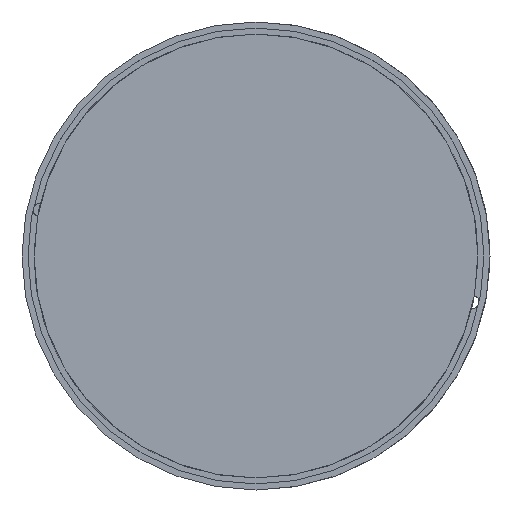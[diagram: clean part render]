
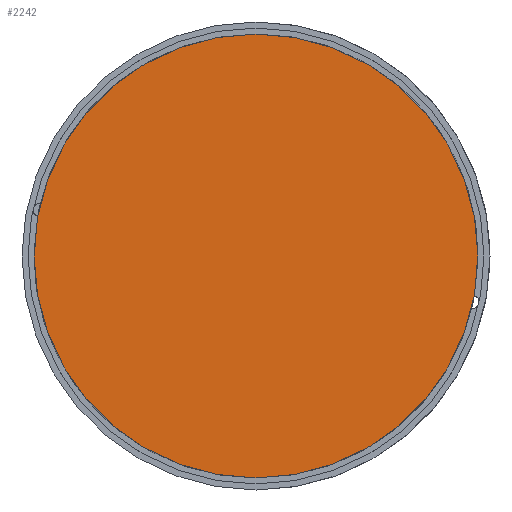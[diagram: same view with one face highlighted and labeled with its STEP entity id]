
A CAD part, front view. The second image highlights one B-rep face of the part: STEP entity #2242.
In plain terms, the highlighted planar face has unit normal (0, -1, 0).
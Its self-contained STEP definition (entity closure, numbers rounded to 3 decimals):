
#807 = DIRECTION ( 'NONE',  ( 0., -1., 0. ) ) ;
#1238 = ORIENTED_EDGE ( 'NONE', *, *, #6525, .T. ) ;
#1332 = EDGE_LOOP ( 'NONE', ( #1238, #5292 ) ) ;
#1816 = AXIS2_PLACEMENT_3D ( 'NONE', #6257, #807, #4438 ) ;
#2242 = ADVANCED_FACE ( 'NONE', ( #7909 ), #4855, .T. ) ;
#3341 = CARTESIAN_POINT ( 'NONE',  ( 0., 0., 147. ) ) ;
#3387 = CIRCLE ( 'NONE', #6582, 147. ) ;
#3608 = DIRECTION ( 'NONE',  ( 0., 0., -1. ) ) ;
#4438 = DIRECTION ( 'NONE',  ( 0., 0., -1. ) ) ;
#4739 = VERTEX_POINT ( 'NONE', #6209 ) ;
#4855 = PLANE ( 'NONE',  #5997 ) ;
#5292 = ORIENTED_EDGE ( 'NONE', *, *, #7378, .T. ) ;
#5395 = DIRECTION ( 'NONE',  ( 0., -1., 0. ) ) ;
#5501 = CIRCLE ( 'NONE', #1816, 147. ) ;
#5688 = DIRECTION ( 'NONE',  ( 0., 0., -1. ) ) ;
#5997 = AXIS2_PLACEMENT_3D ( 'NONE', #7057, #6986, #5688 ) ;
#6007 = VERTEX_POINT ( 'NONE', #3341 ) ;
#6209 = CARTESIAN_POINT ( 'NONE',  ( 0., 0., -147. ) ) ;
#6257 = CARTESIAN_POINT ( 'NONE',  ( 0., 0., 0. ) ) ;
#6525 = EDGE_CURVE ( 'NONE', #4739, #6007, #5501, .T. ) ;
#6582 = AXIS2_PLACEMENT_3D ( 'NONE', #7172, #5395, #3608 ) ;
#6986 = DIRECTION ( 'NONE',  ( 0., -1., 0. ) ) ;
#7057 = CARTESIAN_POINT ( 'NONE',  ( 0., 0., 0. ) ) ;
#7172 = CARTESIAN_POINT ( 'NONE',  ( 0., 0., 0. ) ) ;
#7378 = EDGE_CURVE ( 'NONE', #6007, #4739, #3387, .T. ) ;
#7909 = FACE_OUTER_BOUND ( 'NONE', #1332, .T. ) ;
